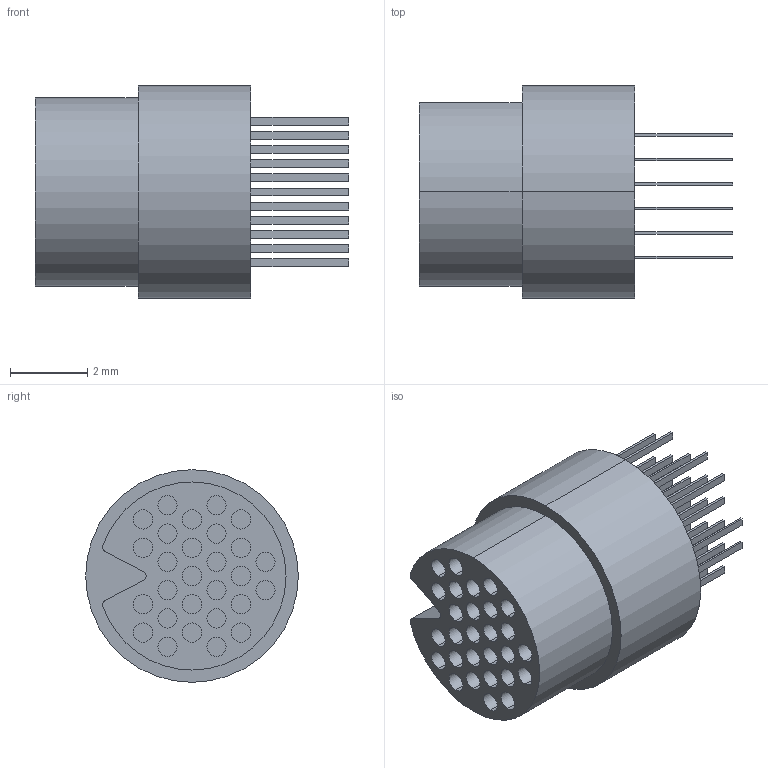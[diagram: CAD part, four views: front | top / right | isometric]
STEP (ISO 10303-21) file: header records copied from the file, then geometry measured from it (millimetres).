
FILE_DESCRIPTION (( 'STEP AP214' ), '1' );
FILE_NAME ('A79114-001 REV E.STEP', '2015-11-06T14:07:26', ( '' ), ( '' ), 'SwSTEP 2.0', 'SolidWorks 2015', '' );
FILE_SCHEMA (( 'AUTOMOTIVE_DESIGN' ));
Length unit declared in the file: inch
Products named in the file (1): A79114-001
Bounding box: 8.13 x 5.51 x 5.51 mm (x, y, z)
Volume: 93.6 mm3; surface area: 374 mm2
Topology: 1 solids, 1 shells, 321 faces, 702 edges, 468 vertices
Faces by surface type: plane 201, cylinder 120
Entity records: 8876 total; most frequent: DIRECTION 1586, CARTESIAN_POINT 1492, ORIENTED_EDGE 1404, EDGE_CURVE 702, AXIS2_PLACEMENT_3D 562, VERTEX_POINT 468, VECTOR 462, LINE 462
